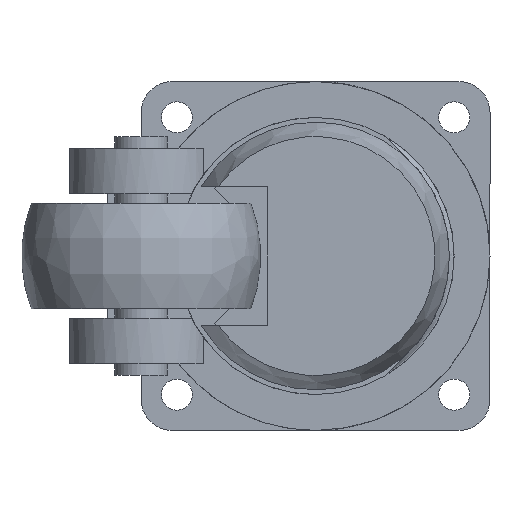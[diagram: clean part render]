
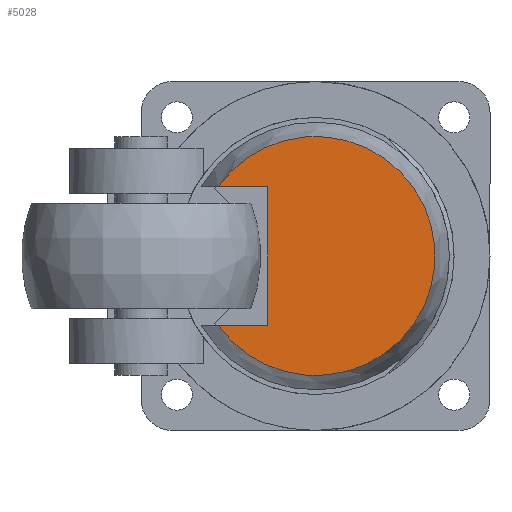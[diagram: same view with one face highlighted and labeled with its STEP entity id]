
A CAD part, front view. The second image highlights one B-rep face of the part: STEP entity #5028.
In plain terms, the highlighted planar face has unit normal (0, -1, 0).
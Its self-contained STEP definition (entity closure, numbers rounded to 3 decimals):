
#299 = DIRECTION ( 'NONE',  ( 0., 0., -1. ) ) ;
#471 = VECTOR ( 'NONE', #299, 1000. ) ;
#583 = LINE ( 'NONE', #2712, #3067 ) ;
#749 = VERTEX_POINT ( 'NONE', #2567 ) ;
#995 = ORIENTED_EDGE ( 'NONE', *, *, #3477, .F. ) ;
#1044 = DIRECTION ( 'NONE',  ( -1., 0., 0. ) ) ;
#1092 = VERTEX_POINT ( 'NONE', #4873 ) ;
#1184 = CARTESIAN_POINT ( 'NONE',  ( -29.248, -30., -14.5 ) ) ;
#1482 = DIRECTION ( 'NONE',  ( 1., 0., 0. ) ) ;
#1591 = DIRECTION ( 'NONE',  ( 0., 1., 0. ) ) ;
#1631 = ORIENTED_EDGE ( 'NONE', *, *, #4610, .T. ) ;
#1800 = VECTOR ( 'NONE', #4010, 1000. ) ;
#1824 = CARTESIAN_POINT ( 'NONE',  ( 0., -30., 0. ) ) ;
#1964 = VERTEX_POINT ( 'NONE', #4356 ) ;
#1993 = EDGE_LOOP ( 'NONE', ( #2417, #995, #1631, #4202 ) ) ;
#2249 = DIRECTION ( 'NONE',  ( 0., 1., 0. ) ) ;
#2417 = ORIENTED_EDGE ( 'NONE', *, *, #3775, .T. ) ;
#2567 = CARTESIAN_POINT ( 'NONE',  ( -20.365, -30., 14.5 ) ) ;
#2649 = VERTEX_POINT ( 'NONE', #4988 ) ;
#2712 = CARTESIAN_POINT ( 'NONE',  ( -29.248, -30., 14.5 ) ) ;
#2723 = CARTESIAN_POINT ( 'NONE',  ( -10., -30., -14.5 ) ) ;
#2787 = PLANE ( 'NONE',  #3784 ) ;
#2950 = LINE ( 'NONE', #1184, #1800 ) ;
#3067 = VECTOR ( 'NONE', #1482, 1000. ) ;
#3477 = EDGE_CURVE ( 'NONE', #749, #2649, #4714, .T. ) ;
#3557 = EDGE_CURVE ( 'NONE', #1964, #1092, #4029, .T. ) ;
#3561 = AXIS2_PLACEMENT_3D ( 'NONE', #1824, #2249, #1044 ) ;
#3775 = EDGE_CURVE ( 'NONE', #1092, #2649, #2950, .T. ) ;
#3784 = AXIS2_PLACEMENT_3D ( 'NONE', #4405, #1591, #5264 ) ;
#4010 = DIRECTION ( 'NONE',  ( -1., 0., 0. ) ) ;
#4029 = LINE ( 'NONE', #2723, #471 ) ;
#4202 = ORIENTED_EDGE ( 'NONE', *, *, #3557, .T. ) ;
#4336 = FACE_OUTER_BOUND ( 'NONE', #1993, .T. ) ;
#4356 = CARTESIAN_POINT ( 'NONE',  ( -10., -30., 14.5 ) ) ;
#4405 = CARTESIAN_POINT ( 'NONE',  ( 0., -30., 0. ) ) ;
#4610 = EDGE_CURVE ( 'NONE', #749, #1964, #583, .T. ) ;
#4714 = CIRCLE ( 'NONE', #3561, 25. ) ;
#4873 = CARTESIAN_POINT ( 'NONE',  ( -10., -30., -14.5 ) ) ;
#4988 = CARTESIAN_POINT ( 'NONE',  ( -20.365, -30., -14.5 ) ) ;
#5028 = ADVANCED_FACE ( 'NONE', ( #4336 ), #2787, .F. ) ;
#5264 = DIRECTION ( 'NONE',  ( -1., 0., 0. ) ) ;
